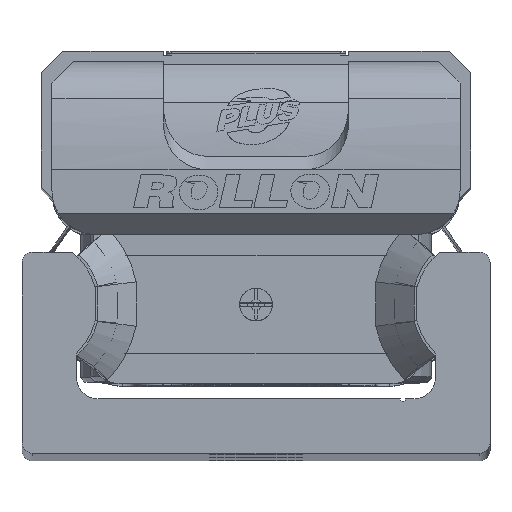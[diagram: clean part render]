
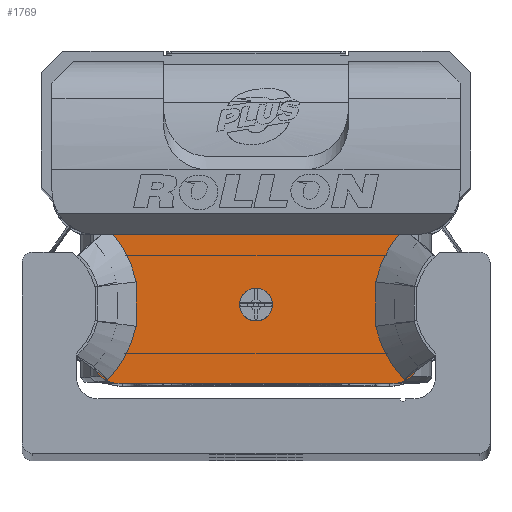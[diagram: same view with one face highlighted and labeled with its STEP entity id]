
A CAD part, top view. The second image highlights one B-rep face of the part: STEP entity #1769.
In plain terms, the highlighted planar face has unit normal (0, 0, 1) as drawn and (0, 0, -1) by its records, which use the part's own axes.
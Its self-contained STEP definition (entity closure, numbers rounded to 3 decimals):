
#1769 = ADVANCED_FACE( '', ( #3740, #3741 ), #3742, .F. );
#3740 = FACE_BOUND( '', #5975, .T. );
#3741 = FACE_OUTER_BOUND( '', #5976, .T. );
#3742 = PLANE( '', #5977 );
#5975 = EDGE_LOOP( '', ( #10741 ) );
#5976 = EDGE_LOOP( '', ( #10742, #10743, #10744, #10745, #10746, #10747, #10748, #10749, #10750, #10751, #10752, #10753 ) );
#5977 = AXIS2_PLACEMENT_3D( '', #10754, #10755, #10756 );
#10741 = ORIENTED_EDGE( '', *, *, #12630, .T. );
#10742 = ORIENTED_EDGE( '', *, *, #13408, .T. );
#10743 = ORIENTED_EDGE( '', *, *, #13175, .F. );
#10744 = ORIENTED_EDGE( '', *, *, #14118, .T. );
#10745 = ORIENTED_EDGE( '', *, *, #13023, .F. );
#10746 = ORIENTED_EDGE( '', *, *, #12634, .T. );
#10747 = ORIENTED_EDGE( '', *, *, #12718, .T. );
#10748 = ORIENTED_EDGE( '', *, *, #12207, .T. );
#10749 = ORIENTED_EDGE( '', *, *, #14086, .T. );
#10750 = ORIENTED_EDGE( '', *, *, #12703, .T. );
#10751 = ORIENTED_EDGE( '', *, *, #13306, .T. );
#10752 = ORIENTED_EDGE( '', *, *, #13676, .T. );
#10753 = ORIENTED_EDGE( '', *, *, #12866, .T. );
#10754 = CARTESIAN_POINT( '', ( 14.9, 7.35, -13.25 ) );
#10755 = DIRECTION( '', ( 0., 0., 1. ) );
#10756 = DIRECTION( '', ( 1., 0., 0. ) );
#12207 = EDGE_CURVE( '', #14422, #14420, #14423, .T. );
#12630 = EDGE_CURVE( '', #15177, #15177, #15178, .T. );
#12634 = EDGE_CURVE( '', #15185, #15183, #15186, .T. );
#12703 = EDGE_CURVE( '', #15302, #15300, #15303, .T. );
#12718 = EDGE_CURVE( '', #15183, #14422, #15328, .T. );
#12866 = EDGE_CURVE( '', #15576, #15574, #15577, .T. );
#13023 = EDGE_CURVE( '', #15185, #15825, #15826, .T. );
#13175 = EDGE_CURVE( '', #16062, #15540, #16064, .T. );
#13306 = EDGE_CURVE( '', #15300, #16263, #16265, .T. );
#13408 = EDGE_CURVE( '', #15574, #15540, #16418, .T. );
#13676 = EDGE_CURVE( '', #16263, #15576, #16797, .T. );
#14086 = EDGE_CURVE( '', #14420, #15302, #17318, .T. );
#14118 = EDGE_CURVE( '', #16062, #15825, #17357, .T. );
#14420 = VERTEX_POINT( '', #17691 );
#14422 = VERTEX_POINT( '', #17694 );
#14423 = B_SPLINE_CURVE_WITH_KNOTS( '', 2, ( #17695, #17696, #17697 ), .UNSPECIFIED., .F., .F., ( 3, 3 ), ( 0., 1. ), .UNSPECIFIED. );
#15177 = VERTEX_POINT( '', #18786 );
#15178 = CIRCLE( '', #18787, 1.5 );
#15183 = VERTEX_POINT( '', #18792 );
#15185 = VERTEX_POINT( '', #18795 );
#15186 = B_SPLINE_CURVE_WITH_KNOTS( '', 1, ( #18796, #18797 ), .UNSPECIFIED., .F., .F., ( 2, 2 ), ( 0., 1. ), .UNSPECIFIED. );
#15300 = VERTEX_POINT( '', #18970 );
#15302 = VERTEX_POINT( '', #18975 );
#15303 = LINE( '', #18976, #18977 );
#15328 = B_SPLINE_CURVE_WITH_KNOTS( '', 2, ( #19015, #19016, #19017, #19018, #19019 ), .UNSPECIFIED., .F., .F., ( 3, 2, 3 ), ( 0., 0.5, 1. ), .UNSPECIFIED. );
#15540 = VERTEX_POINT( '', #19322 );
#15574 = VERTEX_POINT( '', #19373 );
#15576 = VERTEX_POINT( '', #19376 );
#15577 = B_SPLINE_CURVE_WITH_KNOTS( '', 2, ( #19377, #19378, #19379, #19380, #19381 ), .UNSPECIFIED., .F., .F., ( 3, 2, 3 ), ( 0., 0.5, 1. ), .UNSPECIFIED. );
#15825 = VERTEX_POINT( '', #19750 );
#15826 = CIRCLE( '', #19751, 2.5 );
#16062 = VERTEX_POINT( '', #20069 );
#16064 = CIRCLE( '', #20072, 2.5 );
#16263 = VERTEX_POINT( '', #20338 );
#16265 = B_SPLINE_CURVE_WITH_KNOTS( '', 2, ( #20341, #20342, #20343, #20344, #20345 ), .UNSPECIFIED., .F., .F., ( 3, 2, 3 ), ( 0.133, 0.5, 1. ), .UNSPECIFIED. );
#16418 = B_SPLINE_CURVE_WITH_KNOTS( '', 1, ( #20565, #20566 ), .UNSPECIFIED., .F., .F., ( 2, 2 ), ( 0., 1. ), .UNSPECIFIED. );
#16797 = B_SPLINE_CURVE_WITH_KNOTS( '', 2, ( #21153, #21154, #21155 ), .UNSPECIFIED., .F., .F., ( 3, 3 ), ( 0., 1. ), .UNSPECIFIED. );
#17318 = B_SPLINE_CURVE_WITH_KNOTS( '', 2, ( #21841, #21842, #21843, #21844, #21845 ), .UNSPECIFIED., .F., .F., ( 3, 2, 3 ), ( 0., 0.5, 0.868 ), .UNSPECIFIED. );
#17357 = LINE( '', #21891, #21892 );
#17691 = CARTESIAN_POINT( '', ( -11.012, 2.045, -13.25 ) );
#17694 = CARTESIAN_POINT( '', ( -11.012, -2.045, -13.25 ) );
#17695 = CARTESIAN_POINT( '', ( -11.012, -2.045, -13.25 ) );
#17696 = CARTESIAN_POINT( '', ( -10.888, 0., -13.25 ) );
#17697 = CARTESIAN_POINT( '', ( -11.012, 2.045, -13.25 ) );
#18786 = CARTESIAN_POINT( '', ( 1.5, -0.05, -13.25 ) );
#18787 = AXIS2_PLACEMENT_3D( '', #22908, #22909, #22910 );
#18792 = CARTESIAN_POINT( '', ( -13.628, -6.965, -13.25 ) );
#18795 = CARTESIAN_POINT( '', ( -14.904, -5.718, -13.25 ) );
#18796 = CARTESIAN_POINT( '', ( -14.915, -5.713, -13.25 ) );
#18797 = CARTESIAN_POINT( '', ( -13.628, -6.965, -13.25 ) );
#18970 = CARTESIAN_POINT( '', ( 13.12, 6.4, -13.25 ) );
#18975 = CARTESIAN_POINT( '', ( -13.119, 6.4, -13.25 ) );
#18976 = CARTESIAN_POINT( '', ( 14.9, 6.4, -13.25 ) );
#18977 = VECTOR( '', #22987, 1000. );
#19015 = CARTESIAN_POINT( '', ( -13.628, -6.965, -13.25 ) );
#19016 = CARTESIAN_POINT( '', ( -12.638, -5.946, -13.25 ) );
#19017 = CARTESIAN_POINT( '', ( -11.97, -4.691, -13.25 ) );
#19018 = CARTESIAN_POINT( '', ( -11.303, -3.437, -13.25 ) );
#19019 = CARTESIAN_POINT( '', ( -11.012, -2.045, -13.25 ) );
#19322 = CARTESIAN_POINT( '', ( 14.906, -5.717, -13.25 ) );
#19373 = CARTESIAN_POINT( '', ( 13.628, -6.965, -13.25 ) );
#19376 = CARTESIAN_POINT( '', ( 11.012, -2.045, -13.25 ) );
#19377 = CARTESIAN_POINT( '', ( 11.012, -2.045, -13.25 ) );
#19378 = CARTESIAN_POINT( '', ( 11.301, -3.43, -13.25 ) );
#19379 = CARTESIAN_POINT( '', ( 11.972, -4.69, -13.25 ) );
#19380 = CARTESIAN_POINT( '', ( 12.642, -5.95, -13.25 ) );
#19381 = CARTESIAN_POINT( '', ( 13.628, -6.965, -13.25 ) );
#19750 = CARTESIAN_POINT( '', ( -12.58, -7.3, -13.25 ) );
#19751 = AXIS2_PLACEMENT_3D( '', #23423, #23424, #23425 );
#20069 = CARTESIAN_POINT( '', ( 12.58, -7.3, -13.25 ) );
#20072 = AXIS2_PLACEMENT_3D( '', #23606, #23607, #23608 );
#20338 = CARTESIAN_POINT( '', ( 11.012, 2.045, -13.25 ) );
#20341 = CARTESIAN_POINT( '', ( 13.119, 6.4, -13.25 ) );
#20342 = CARTESIAN_POINT( '', ( 12.459, 5.608, -13.25 ) );
#20343 = CARTESIAN_POINT( '', ( 11.968, 4.684, -13.25 ) );
#20344 = CARTESIAN_POINT( '', ( 11.301, 3.427, -13.25 ) );
#20345 = CARTESIAN_POINT( '', ( 11.012, 2.045, -13.25 ) );
#20565 = CARTESIAN_POINT( '', ( 13.628, -6.965, -13.25 ) );
#20566 = CARTESIAN_POINT( '', ( 14.9, -5.728, -13.25 ) );
#21153 = CARTESIAN_POINT( '', ( 11.012, 2.045, -13.25 ) );
#21154 = CARTESIAN_POINT( '', ( 10.888, 0., -13.25 ) );
#21155 = CARTESIAN_POINT( '', ( 11.012, -2.045, -13.25 ) );
#21841 = CARTESIAN_POINT( '', ( -11.012, 2.045, -13.25 ) );
#21842 = CARTESIAN_POINT( '', ( -11.302, 3.432, -13.25 ) );
#21843 = CARTESIAN_POINT( '', ( -11.967, 4.685, -13.25 ) );
#21844 = CARTESIAN_POINT( '', ( -12.456, 5.606, -13.25 ) );
#21845 = CARTESIAN_POINT( '', ( -13.119, 6.4, -13.25 ) );
#21891 = CARTESIAN_POINT( '', ( 12.58, -7.3, -13.25 ) );
#21892 = VECTOR( '', #24769, 1000. );
#22908 = CARTESIAN_POINT( '', ( 0., -0.05, -13.25 ) );
#22909 = DIRECTION( '', ( 0., 0., 1. ) );
#22910 = DIRECTION( '', ( 1., 0., 0. ) );
#22987 = DIRECTION( '', ( 1., 0., 0. ) );
#23423 = CARTESIAN_POINT( '', ( -12.58, -4.8, -13.25 ) );
#23424 = DIRECTION( '', ( 0., 0., 1. ) );
#23425 = DIRECTION( '', ( 1., 0., 0. ) );
#23606 = CARTESIAN_POINT( '', ( 12.58, -4.8, -13.25 ) );
#23607 = DIRECTION( '', ( 0., 0., 1. ) );
#23608 = DIRECTION( '', ( 1., 0., 0. ) );
#24769 = DIRECTION( '', ( -1., 0., 0. ) );
